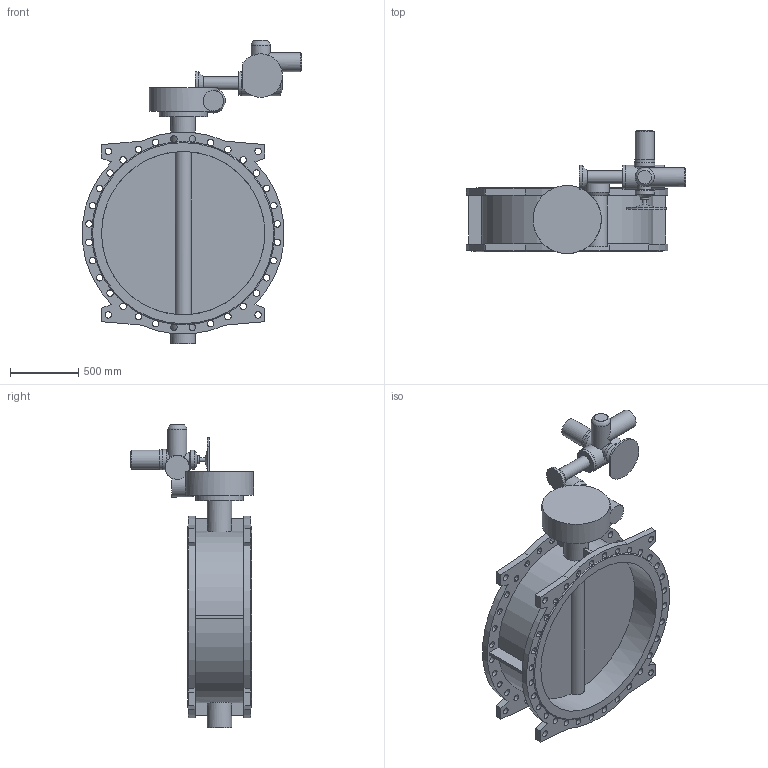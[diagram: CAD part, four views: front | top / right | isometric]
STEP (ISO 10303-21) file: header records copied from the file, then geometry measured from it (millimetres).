
FILE_DESCRIPTION(('STEP AP203'), '1');
FILE_NAME('Çàòâîð 021F.Y DN1200 +ðåäóêòîð+ÌÒ903.À30-67', '', ('UNSPECIFIED'), ('UNSPECIFIED'), 'ASCON STEP Converter 1.6', 'ASCON Math Kernel', '');
FILE_SCHEMA(('CONFIG_CONTROL_DESIGN'));
Length unit declared in the file: millimetre
Bounding box: 1608.7 x 904 x 2228 mm (x, y, z)
Volume: 222530339 mm3; surface area: 10968231.6 mm2
Topology: 1 solids, 1 shells, 436 faces, 1370 edges, 909 vertices
Faces by surface type: plane 223, cylinder 199, cone 13, torus 1
Full cylindrical faces by diameter (mm): 14 x4, 17.5 x8, 18 x4, 22 x8, 32 x1, 48 x8, 60 x1, 95 x1, 100 x1, 140 x4, 147 x1, 151 x1, 175 x2, 180 x4, 350 x1, 500 x1, 1200 x2
Entity records: 23478 total; most frequent: CARTESIAN_POINT 7452, DIRECTION 2618, ORIENTED_EDGE 2612, EDGE_CURVE 1306, AXIS2_PLACEMENT_3D 976, VERTEX_POINT 909, LINE 666, VECTOR 666
